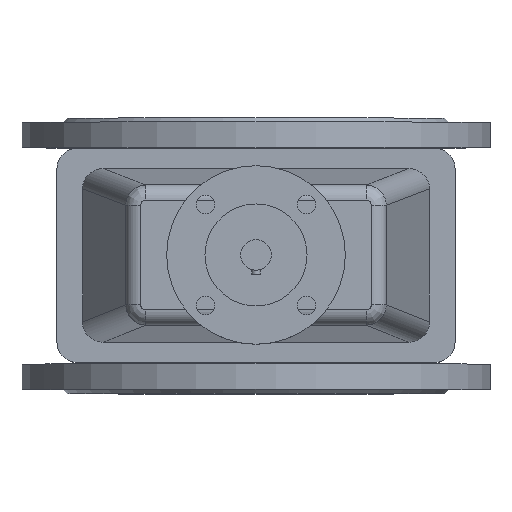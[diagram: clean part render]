
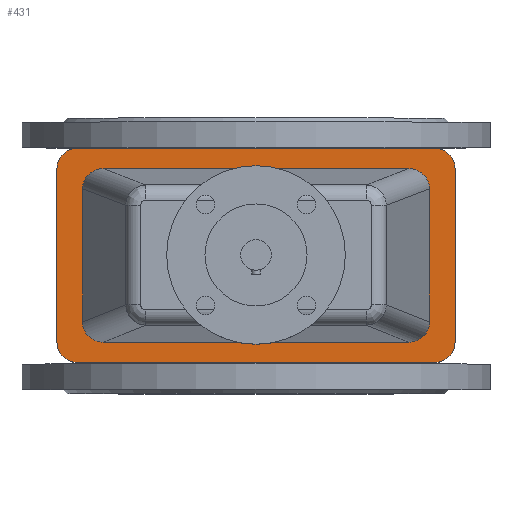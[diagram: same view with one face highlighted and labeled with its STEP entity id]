
A CAD part, top view. The second image highlights one B-rep face of the part: STEP entity #431.
In plain terms, the highlighted planar face has unit normal (0, 0, 1).
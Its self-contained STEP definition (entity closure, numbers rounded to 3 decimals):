
#431=ADVANCED_FACE('',(#1434,#1436),#1438,.T.);
#1434=FACE_BOUND('',#1435,.T.);
#1435=EDGE_LOOP('',(#2639,#2640,#2641,#2642,#2643,#2644,#2645,#2646));
#1436=FACE_BOUND('',#1437,.T.);
#1437=EDGE_LOOP('',(#2647,#2648,#2649,#2650,#2651,#2652,#2653,#2654));
#1438=PLANE('',#1439);
#1439=AXIS2_PLACEMENT_3D('',#1440,#1441,#1442);
#1440=CARTESIAN_POINT('',(0.,0.,330.));
#1441=DIRECTION('',(0.,-0.,1.));
#1442=DIRECTION('',(0.,1.,0.));
#2639=ORIENTED_EDGE('',*,*,#3017,.F.);
#2640=ORIENTED_EDGE('',*,*,#3030,.T.);
#2641=ORIENTED_EDGE('',*,*,#3029,.F.);
#2642=ORIENTED_EDGE('',*,*,#3027,.T.);
#2643=ORIENTED_EDGE('',*,*,#3025,.F.);
#2644=ORIENTED_EDGE('',*,*,#3023,.T.);
#2645=ORIENTED_EDGE('',*,*,#3021,.F.);
#2646=ORIENTED_EDGE('',*,*,#3018,.T.);
#2647=ORIENTED_EDGE('',*,*,#3055,.F.);
#2648=ORIENTED_EDGE('',*,*,#3056,.F.);
#2649=ORIENTED_EDGE('',*,*,#3057,.F.);
#2650=ORIENTED_EDGE('',*,*,#3058,.F.);
#2651=ORIENTED_EDGE('',*,*,#3059,.F.);
#2652=ORIENTED_EDGE('',*,*,#3060,.F.);
#2653=ORIENTED_EDGE('',*,*,#3061,.F.);
#2654=ORIENTED_EDGE('',*,*,#3062,.F.);
#3017=EDGE_CURVE('',#3337,#3335,#3339,.F.);
#3018=EDGE_CURVE('',#3340,#3335,#3341,.T.);
#3021=EDGE_CURVE('',#3340,#3343,#3345,.F.);
#3023=EDGE_CURVE('',#3346,#3343,#3348,.T.);
#3025=EDGE_CURVE('',#3346,#3349,#3351,.F.);
#3027=EDGE_CURVE('',#3352,#3349,#3354,.T.);
#3029=EDGE_CURVE('',#3352,#3355,#3357,.F.);
#3030=EDGE_CURVE('',#3337,#3355,#3358,.T.);
#3055=EDGE_CURVE('',#3403,#3404,#3405,.F.);
#3056=EDGE_CURVE('',#3406,#3403,#3407,.T.);
#3057=EDGE_CURVE('',#3408,#3406,#3409,.T.);
#3058=EDGE_CURVE('',#3410,#3408,#3411,.T.);
#3059=EDGE_CURVE('',#3412,#3410,#3413,.F.);
#3060=EDGE_CURVE('',#3414,#3412,#3415,.T.);
#3061=EDGE_CURVE('',#3416,#3414,#3417,.T.);
#3062=EDGE_CURVE('',#3404,#3416,#3418,.T.);
#3335=VERTEX_POINT('',#3988);
#3337=VERTEX_POINT('',#3992);
#3339=CIRCLE('',#3996,20.);
#3340=VERTEX_POINT('',#4000);
#3341=LINE('',#4001,#4002);
#3343=VERTEX_POINT('',#4007);
#3345=CIRCLE('',#4011,20.);
#3346=VERTEX_POINT('',#4015);
#3348=LINE('',#4019,#4020);
#3349=VERTEX_POINT('',#4022);
#3351=CIRCLE('',#4026,20.);
#3352=VERTEX_POINT('',#4030);
#3354=LINE('',#4034,#4035);
#3355=VERTEX_POINT('',#4037);
#3357=CIRCLE('',#4041,20.);
#3358=LINE('',#4045,#4046);
#3403=VERTEX_POINT('',#4154);
#3404=VERTEX_POINT('',#4155);
#3405=(BOUNDED_CURVE()B_SPLINE_CURVE(3,
(#4156,#4157,#4158,#4159),
.UNSPECIFIED.,.F.,.F.)B_SPLINE_CURVE_WITH_KNOTS((4,4),
(0.,1.),
.UNSPECIFIED.)CURVE()GEOMETRIC_REPRESENTATION_ITEM()RATIONAL_B_SPLINE_CURVE((1.,
0.809,0.809,1.))REPRESENTATION_ITEM(''));
#3406=VERTEX_POINT('',#4160);
#3407=LINE('',#4161,#4162);
#3408=VERTEX_POINT('',#4164);
#3409=(BOUNDED_CURVE()B_SPLINE_CURVE(3,
(#4165,#4166,#4167,#4168),
.UNSPECIFIED.,.F.,.F.)B_SPLINE_CURVE_WITH_KNOTS((4,4),
(0.,1.),
.UNSPECIFIED.)CURVE()GEOMETRIC_REPRESENTATION_ITEM()RATIONAL_B_SPLINE_CURVE((1.,
0.809,0.809,1.))REPRESENTATION_ITEM(''));
#3410=VERTEX_POINT('',#4169);
#3411=LINE('',#4170,#4171);
#3412=VERTEX_POINT('',#4173);
#3413=(BOUNDED_CURVE()B_SPLINE_CURVE(3,
(#4174,#4175,#4176,#4177),
.UNSPECIFIED.,.F.,.F.)B_SPLINE_CURVE_WITH_KNOTS((4,4),
(0.,1.),
.UNSPECIFIED.)CURVE()GEOMETRIC_REPRESENTATION_ITEM()RATIONAL_B_SPLINE_CURVE((1.,
0.809,0.809,1.))REPRESENTATION_ITEM(''));
#3414=VERTEX_POINT('',#4178);
#3415=LINE('',#4179,#4180);
#3416=VERTEX_POINT('',#4182);
#3417=(BOUNDED_CURVE()B_SPLINE_CURVE(3,
(#4183,#4184,#4185,#4186),
.UNSPECIFIED.,.F.,.F.)B_SPLINE_CURVE_WITH_KNOTS((4,4),
(0.,1.),
.UNSPECIFIED.)CURVE()GEOMETRIC_REPRESENTATION_ITEM()RATIONAL_B_SPLINE_CURVE((1.,
0.809,0.809,1.))REPRESENTATION_ITEM(''));
#3418=LINE('',#4187,#4188);
#3988=CARTESIAN_POINT('',(-195.,-85.,330.));
#3992=CARTESIAN_POINT('',(-175.,-105.,330.));
#3996=AXIS2_PLACEMENT_3D('',#3997,#3998,#3999);
#3997=CARTESIAN_POINT('',(-175.,-85.,330.));
#3998=DIRECTION('',(0.,-0.,1.));
#3999=DIRECTION('',(-1.,0.,0.));
#4000=CARTESIAN_POINT('',(-195.,85.,330.));
#4001=CARTESIAN_POINT('',(-195.,85.,330.));
#4002=VECTOR('',#4003,1.);
#4003=DIRECTION('',(0.,-1.,0.));
#4007=CARTESIAN_POINT('',(-175.,105.,330.));
#4011=AXIS2_PLACEMENT_3D('',#4012,#4013,#4014);
#4012=CARTESIAN_POINT('',(-175.,85.,330.));
#4013=DIRECTION('',(0.,-0.,1.));
#4014=DIRECTION('',(0.,1.,0.));
#4015=CARTESIAN_POINT('',(175.,105.,330.));
#4019=CARTESIAN_POINT('',(175.,105.,330.));
#4020=VECTOR('',#4021,1.);
#4021=DIRECTION('',(-1.,0.,0.));
#4022=CARTESIAN_POINT('',(195.,85.,330.));
#4026=AXIS2_PLACEMENT_3D('',#4027,#4028,#4029);
#4027=CARTESIAN_POINT('',(175.,85.,330.));
#4028=DIRECTION('',(0.,-0.,1.));
#4029=DIRECTION('',(1.,0.,0.));
#4030=CARTESIAN_POINT('',(195.,-85.,330.));
#4034=CARTESIAN_POINT('',(195.,-85.,330.));
#4035=VECTOR('',#4036,1.);
#4036=DIRECTION('',(0.,1.,0.));
#4037=CARTESIAN_POINT('',(175.,-105.,330.));
#4041=AXIS2_PLACEMENT_3D('',#4042,#4043,#4044);
#4042=CARTESIAN_POINT('',(175.,-85.,330.));
#4043=DIRECTION('',(0.,-0.,1.));
#4044=DIRECTION('',(0.,-1.,0.));
#4045=CARTESIAN_POINT('',(-175.,-105.,330.));
#4046=VECTOR('',#4047,1.);
#4047=DIRECTION('',(1.,0.,0.));
#4154=CARTESIAN_POINT('',(-170.,-65.308,330.));
#4155=CARTESIAN_POINT('',(-149.892,-85.,330.));
#4156=CARTESIAN_POINT('',(-149.892,-85.,330.));
#4157=CARTESIAN_POINT('',(-161.717,-85.,330.));
#4158=CARTESIAN_POINT('',(-170.,-76.888,330.));
#4159=CARTESIAN_POINT('',(-170.,-65.308,330.));
#4160=CARTESIAN_POINT('',(-170.,65.308,330.));
#4161=CARTESIAN_POINT('',(-170.,65.308,330.));
#4162=VECTOR('',#4163,1.);
#4163=DIRECTION('',(0.,-1.,0.));
#4164=CARTESIAN_POINT('',(-149.892,85.,330.));
#4165=CARTESIAN_POINT('',(-149.892,85.,330.));
#4166=CARTESIAN_POINT('',(-161.717,85.,330.));
#4167=CARTESIAN_POINT('',(-170.,76.888,330.));
#4168=CARTESIAN_POINT('',(-170.,65.308,330.));
#4169=CARTESIAN_POINT('',(149.892,85.,330.));
#4170=CARTESIAN_POINT('',(149.892,85.,330.));
#4171=VECTOR('',#4172,1.);
#4172=DIRECTION('',(-1.,0.,0.));
#4173=CARTESIAN_POINT('',(170.,65.308,330.));
#4174=CARTESIAN_POINT('',(149.892,85.,330.));
#4175=CARTESIAN_POINT('',(161.717,85.,330.));
#4176=CARTESIAN_POINT('',(170.,76.888,330.));
#4177=CARTESIAN_POINT('',(170.,65.308,330.));
#4178=CARTESIAN_POINT('',(170.,-65.308,330.));
#4179=CARTESIAN_POINT('',(170.,-65.308,330.));
#4180=VECTOR('',#4181,1.);
#4181=DIRECTION('',(0.,1.,0.));
#4182=CARTESIAN_POINT('',(149.892,-85.,330.));
#4183=CARTESIAN_POINT('',(149.892,-85.,330.));
#4184=CARTESIAN_POINT('',(161.717,-85.,330.));
#4185=CARTESIAN_POINT('',(170.,-76.888,330.));
#4186=CARTESIAN_POINT('',(170.,-65.308,330.));
#4187=CARTESIAN_POINT('',(-149.892,-85.,330.));
#4188=VECTOR('',#4189,1.);
#4189=DIRECTION('',(1.,0.,0.));
